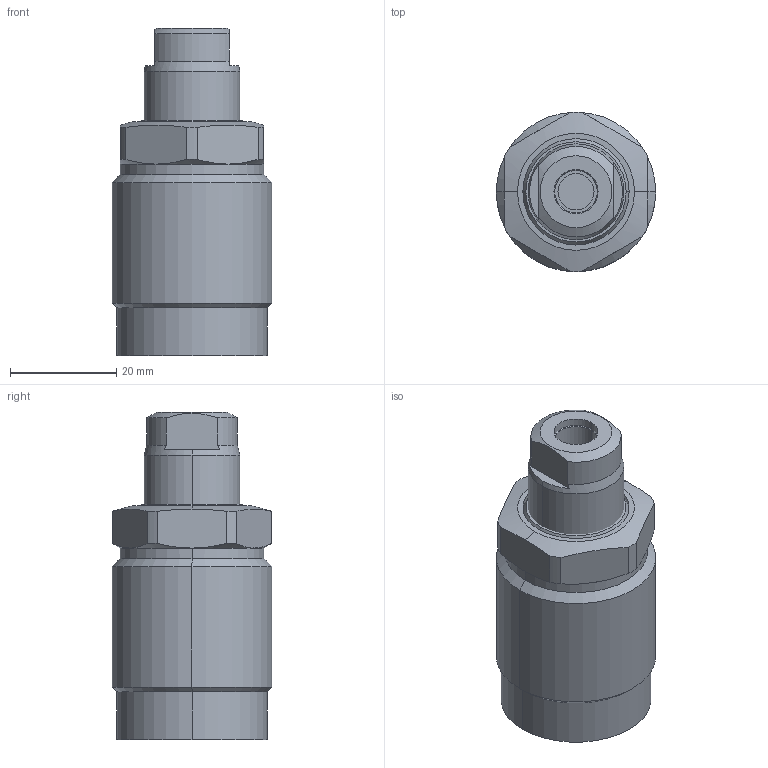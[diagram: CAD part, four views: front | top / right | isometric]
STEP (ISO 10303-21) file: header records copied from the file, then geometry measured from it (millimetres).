
FILE_DESCRIPTION (( 'STEP AP203' ), '1' );
FILE_NAME ('650301-AM.step', '2016-11-02T03:14:07', ( 'wxp' ), ( '' ), 'SwSTEP 2.0', 'SolidWorks 2011', '' );
FILE_SCHEMA (( 'CONFIG_CONTROL_DESIGN' ));
Length unit declared in the file: millimetre
Products named in the file (3): 650301-AM; 葩璃 650301-AM.sldasm-Part-2^650301-AM; 葩璃 650301-AM.sldasm-Part-1^650301-AM
Assembly tree (2 placements, depth 2):
  650301-AM
    葩璃 650301-AM.sldasm-Part-1^650301-AM
    葩璃 650301-AM.sldasm-Part-2^650301-AM
Bounding box: 30 x 30 x 61.5 mm (x, y, z)
Volume: 33005.3 mm3; surface area: 7629.9 mm2
Topology: 2 solids, 2 shells, 84 faces, 194 edges, 121 vertices
Faces by surface type: cylinder 34, cone 22, plane 22, torus 6
Entity records: 2773 total; most frequent: CARTESIAN_POINT 558, DIRECTION 430, ORIENTED_EDGE 384, EDGE_CURVE 192, AXIS2_PLACEMENT_3D 185, VERTEX_POINT 121, CIRCLE 96, EDGE_LOOP 93
